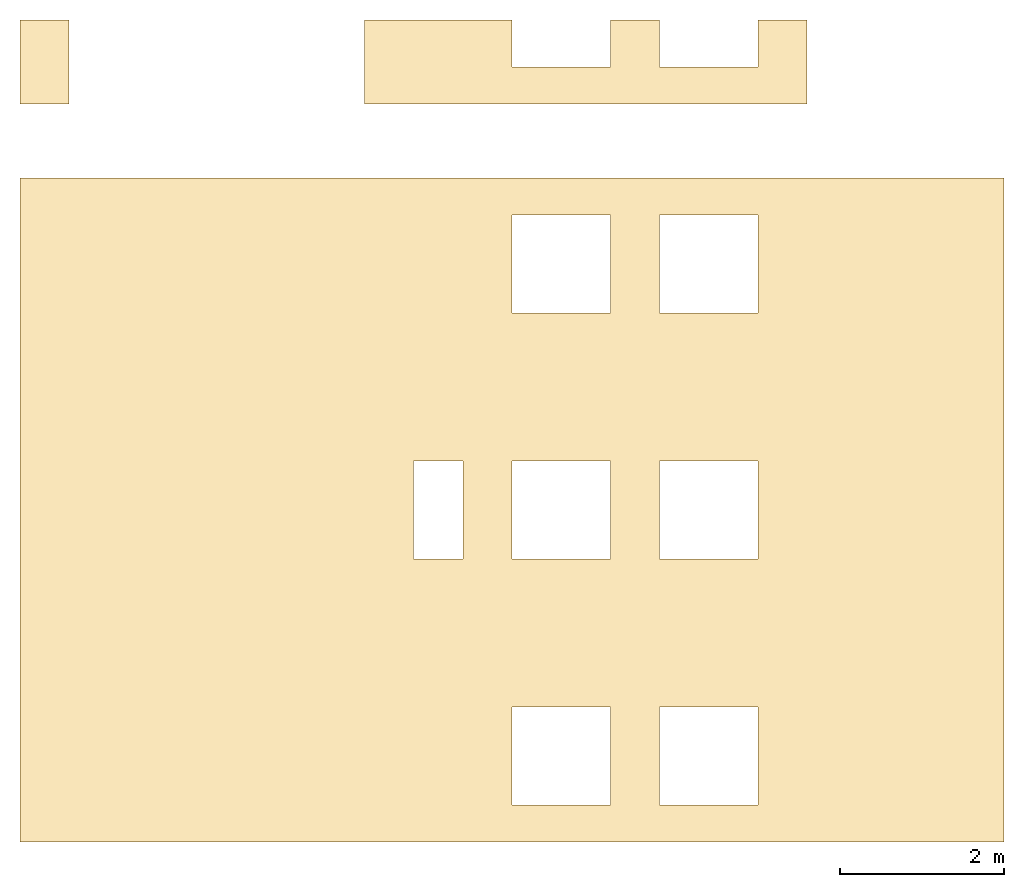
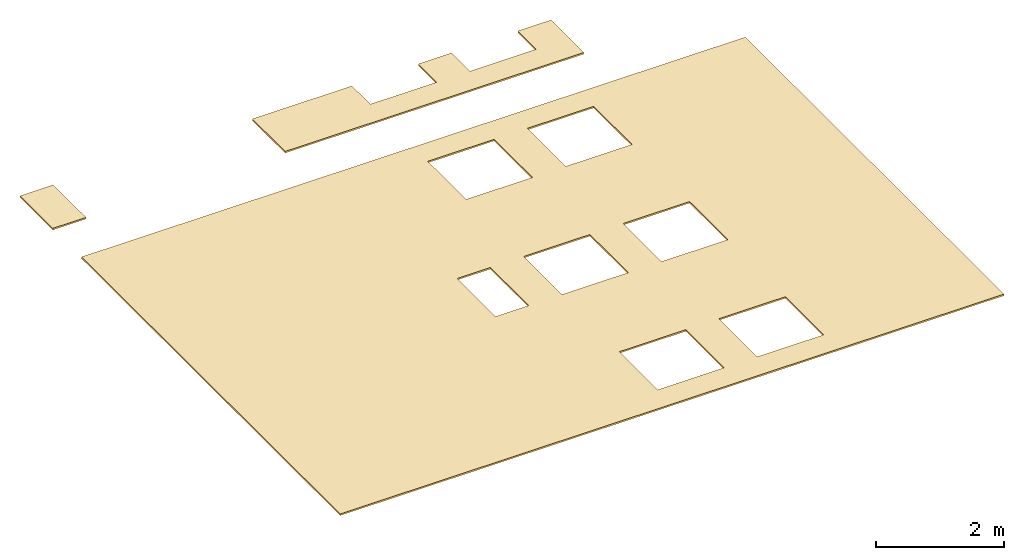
# One storey: 2 coverings.
"""IFC2X3 building model written with IfcOpenShell, lengths in millimetres."""

from ifc_helpers import new_model, entity, si_unit, converted_unit, derived_unit, direction, frame, origin_with_axes, place, context, subcontext, project, spatial, faceted_brep, type_object, element, save


model = new_model("IFC2X3")

# Units and contexts
model_context = context("Model", 3, precision=0.01, world=frame((0.0, 4.29681676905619e-09, 0.0)), true_north=direction((4.01073788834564e-13, 1.0)))
plan_context = context("Plan", 3, precision=0.01, world=frame((0.0, 4.29681676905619e-09, 0.0)), true_north=direction((4.01073788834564e-13, 1.0)))
body_context = subcontext(model_context, "Body", "Model", "MODEL_VIEW")
ifc_project = project(units=[converted_unit("PLANEANGLEUNIT", "DEGREE", entity("IfcPositiveLengthMeasure", 0.0174532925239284), si_unit("PLANEANGLEUNIT", "RADIAN"), dimensions=[0, 0, 0, 0, 0, 0, 0]), si_unit("AREAUNIT", "SQUARE_METRE"), si_unit("LENGTHUNIT", "METRE", prefix="MILLI"), si_unit("MASSUNIT", "GRAM", prefix="KILO"), si_unit("POWERUNIT", "WATT"), si_unit("PRESSUREUNIT", "PASCAL"), si_unit("FORCEUNIT", "NEWTON", prefix="KILO"), si_unit("ELECTRICVOLTAGEUNIT", "VOLT"), si_unit("ELECTRICCURRENTUNIT", "AMPERE"), si_unit("THERMODYNAMICTEMPERATUREUNIT", "DEGREE_CELSIUS"), si_unit("TIMEUNIT", "SECOND"), si_unit("VOLUMEUNIT", "CUBIC_METRE"), derived_unit("LINEARVELOCITYUNIT", [(si_unit("LENGTHUNIT", "METRE"), 1), (si_unit("TIMEUNIT", "SECOND"), -1)]), derived_unit("VOLUMETRICFLOWRATEUNIT", [(si_unit("VOLUMEUNIT", "CUBIC_METRE"), 1), (si_unit("TIMEUNIT", "SECOND"), -1)]), derived_unit("THERMALTRANSMITTANCEUNIT", [(si_unit("POWERUNIT", "WATT"), 1), (si_unit("THERMODYNAMICTEMPERATUREUNIT", "KELVIN"), -1), (si_unit("AREAUNIT", "SQUARE_METRE"), -1)]), derived_unit("SOUNDPRESSUREUNIT", [(si_unit("PRESSUREUNIT", "PASCAL"), 1)])], contexts=[model_context, plan_context])

# Site, building, storey
site_placement = place(None, origin_with_axes())
site = spatial("IfcSite", under=ifc_project, at=site_placement, Name="ENGM", CompositionType="ELEMENT")
building_placement = place(site_placement, origin_with_axes())
building = spatial("IfcBuilding", under=site, at=building_placement, Name="TI", CompositionType="ELEMENT")
storey_placement = place(building_placement, frame((0.0, 0.0, 204000.0), z_axis=(0.0, 0.0, 1.0), x_axis=(1.0, 0.0, 0.0)))
storey = spatial("IfcBuildingStorey", under=building, at=storey_placement, Name="Nivå D", CompositionType="ELEMENT", Elevation=204000.0)

# Coverings
covering_type = type_object("IfcCoveringType", Name="Compound Ceiling:A255 - HI-G03", PredefinedType="CEILING")
covering_1_placement = place(storey_placement, origin_with_axes())
element("IfcCovering", 1, at=covering_1_placement, inside=storey, type_object=covering_type, Name="Compound Ceiling:A255 - HI-G03", ObjectType="Compound Ceiling:A255 - HI-G03", PredefinedType="CEILING", context=body_context, shape_type="Brep", body=[
    faceted_brep([(605800.000000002, 699475.499999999, 6414.99999999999), (605800.000000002, 699475.499999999, 6385.0), (605800.000000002, 698900.000000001, 6385.0), (605800.000000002, 698900.000000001, 6414.99999999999), (607000.000000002, 699475.499999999, 6385.0), (607000.000000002, 699475.499999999, 6414.99999999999), (607000.000000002, 698900.000000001, 6414.99999999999), (607000.000000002, 698900.000000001, 6385.0), (604000.000000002, 699475.499999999, 6414.99999999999), (604000.000000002, 699475.499999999, 6385.0), (604000.000000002, 698900.000000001, 6385.0), (604000.000000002, 698900.000000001, 6414.99999999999), (605200.000000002, 699475.499999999, 6385.0), (605200.000000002, 699475.499999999, 6414.99999999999), (605200.000000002, 698900.000000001, 6414.99999999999), (605200.000000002, 698900.000000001, 6385.0), (607600.000000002, 699475.499999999, 6414.99999999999), (607600.000000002, 699475.499999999, 6385.0), (607600.000000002, 698450.000000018, 6385.0), (607600.000000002, 698450.000000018, 6414.99999999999), (602200.000000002, 699475.499999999, 6385.0), (602200.000000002, 699475.499999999, 6414.99999999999), (602200.000000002, 698450.000000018, 6414.99999999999), (602200.000000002, 698450.000000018, 6385.0)], [[[0, 1, 2, 3]], [[4, 5, 6, 7]], [[7, 6, 3, 2]], [[8, 9, 10, 11]], [[12, 13, 14, 15]], [[15, 14, 11, 10]], [[16, 17, 18, 19]], [[20, 21, 22, 23]], [[23, 22, 19, 18]], [[17, 4, 7, 2, 1, 12, 15, 10, 9, 20, 23, 18]], [[21, 8, 11, 14, 13, 0, 3, 6, 5, 16, 19, 22]], [[13, 12, 1, 0]], [[17, 16, 5, 4]], [[21, 20, 9, 8]]], orient=[[False], [False], [False], [False], [False], [False], [False], [False], [False], [False], [False], [False], [False], [False]]),
    faceted_brep([(597999.99999994, 699475.499999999, 6385.0), (597999.99999994, 699475.499999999, 6414.99999999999), (598000.000000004, 698450.000000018, 6414.99999999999), (598000.000000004, 698450.000000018, 6385.0), (598600.000000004, 698450.000000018, 6414.99999999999), (598600.000000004, 698450.000000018, 6385.0), (598600.000000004, 699475.499999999, 6414.99999999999), (598600.000000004, 699475.499999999, 6385.0)], [[[0, 1, 2, 3]], [[3, 2, 4, 5]], [[6, 7, 5, 4]], [[7, 0, 3, 5]], [[1, 6, 4, 2]], [[0, 7, 6, 1]]], orient=[[False], [False], [False], [False], [False], [False]]),
])
covering_2_placement = place(storey_placement, origin_with_axes())
element("IfcCovering", 2, at=covering_2_placement, inside=storey, type_object=covering_type, Name="Compound Ceiling:A255 - HI-G03", ObjectType="Compound Ceiling:A255 - HI-G03", PredefinedType="CEILING", context=body_context, shape_type="Brep", body=[
    faceted_brep([(602800.000000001, 694100.0, 6385.0), (602800.000000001, 694100.0, 6414.99999999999), (603400.000000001, 694100.0, 6414.99999999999), (603400.000000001, 694100.0, 6385.0), (603400.000000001, 692900.0, 6414.99999999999), (603400.000000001, 692900.0, 6385.0), (602800.000000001, 692900.0, 6414.99999999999), (602800.000000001, 692900.0, 6385.0), (605800.000000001, 695900.000000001, 6385.0), (605800.000000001, 695900.000000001, 6414.99999999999), (605800.000000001, 697100.000000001, 6414.99999999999), (605800.000000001, 697100.000000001, 6385.0), (607000.000000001, 697100.000000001, 6414.99999999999), (607000.000000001, 697100.000000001, 6385.0), (607000.000000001, 695900.000000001, 6414.99999999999), (607000.000000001, 695900.000000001, 6385.0), (604000.000000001, 695900.000000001, 6385.0), (604000.000000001, 695900.000000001, 6414.99999999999), (604000.000000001, 697100.000000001, 6414.99999999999), (604000.000000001, 697100.000000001, 6385.0), (605200.000000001, 697100.000000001, 6414.99999999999), (605200.000000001, 697100.000000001, 6385.0), (605200.000000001, 695900.000000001, 6414.99999999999), (605200.000000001, 695900.000000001, 6385.0), (605800.000000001, 692900.000000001, 6385.0), (605800.000000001, 692900.000000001, 6414.99999999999), (605800.000000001, 694100.000000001, 6414.99999999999), (605800.000000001, 694100.000000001, 6385.0), (607000.000000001, 694100.000000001, 6414.99999999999), (607000.000000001, 694100.000000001, 6385.0), (607000.000000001, 692900.000000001, 6414.99999999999), (607000.000000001, 692900.000000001, 6385.0), (604000.000000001, 692900.000000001, 6385.0), (604000.000000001, 692900.000000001, 6414.99999999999), (604000.000000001, 694100.000000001, 6414.99999999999), (604000.000000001, 694100.000000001, 6385.0), (605200.000000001, 694100.000000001, 6414.99999999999), (605200.000000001, 694100.000000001, 6385.0), (605200.000000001, 692900.000000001, 6414.99999999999), (605200.000000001, 692900.000000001, 6385.0), (605800.000000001, 689900.000000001, 6385.0), (605800.000000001, 689900.000000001, 6414.99999999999), (605800.000000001, 691100.000000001, 6414.99999999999), (605800.000000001, 691100.000000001, 6385.0), (607000.000000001, 691100.000000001, 6414.99999999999), (607000.000000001, 691100.000000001, 6385.0), (607000.000000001, 689900.000000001, 6414.99999999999), (607000.000000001, 689900.000000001, 6385.0), (604000.000000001, 689900.000000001, 6385.0), (604000.000000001, 689900.000000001, 6414.99999999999), (604000.000000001, 691100.000000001, 6414.99999999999), (604000.000000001, 691100.000000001, 6385.0), (605200.000000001, 691100.000000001, 6414.99999999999), (605200.000000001, 691100.000000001, 6385.0), (605200.000000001, 689900.000000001, 6414.99999999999), (605200.000000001, 689900.000000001, 6385.0), (610000.000000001, 697550.000000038, 6385.0), (610000.000000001, 697550.000000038, 6414.99999999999), (598000.000000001, 697550.000000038, 6414.99999999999), (598000.000000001, 697550.000000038, 6385.0), (598000.000000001, 689450.000000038, 6414.99999999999), (598000.000000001, 689450.000000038, 6385.0), (610000.000000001, 689450.000000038, 6414.99999999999), (610000.000000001, 689450.000000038, 6385.0)], [[[0, 1, 2, 3]], [[3, 2, 4, 5]], [[5, 4, 6, 7]], [[7, 6, 1, 0]], [[8, 9, 10, 11]], [[11, 10, 12, 13]], [[13, 12, 14, 15]], [[15, 14, 9, 8]], [[16, 17, 18, 19]], [[19, 18, 20, 21]], [[21, 20, 22, 23]], [[23, 22, 17, 16]], [[24, 25, 26, 27]], [[27, 26, 28, 29]], [[29, 28, 30, 31]], [[31, 30, 25, 24]], [[32, 33, 34, 35]], [[35, 34, 36, 37]], [[37, 36, 38, 39]], [[39, 38, 33, 32]], [[40, 41, 42, 43]], [[43, 42, 44, 45]], [[45, 44, 46, 47]], [[47, 46, 41, 40]], [[48, 49, 50, 51]], [[51, 50, 52, 53]], [[53, 52, 54, 55]], [[55, 54, 49, 48]], [[56, 57, 58, 59]], [[59, 58, 60, 61]], [[61, 60, 62, 63]], [[63, 62, 57, 56]], [[56, 59, 61, 63], [0, 3, 5, 7], [8, 11, 13, 15], [16, 19, 21, 23], [24, 27, 29, 31], [32, 35, 37, 39], [40, 43, 45, 47], [48, 51, 53, 55]], [[58, 57, 62, 60], [1, 6, 4, 2], [9, 14, 12, 10], [17, 22, 20, 18], [25, 30, 28, 26], [33, 38, 36, 34], [41, 46, 44, 42], [49, 54, 52, 50]]], orient=[[False], [False], [False], [False], [False], [False], [False], [False], [False], [False], [False], [False], [False], [False], [False], [False], [False], [False], [False], [False], [False], [False], [False], [False], [False], [False], [False], [False], [False], [False], [False], [False], [False, False, False, False, False, False, False, False], [False, False, False, False, False, False, False, False]]),
])

save(model, "model.ifc")
